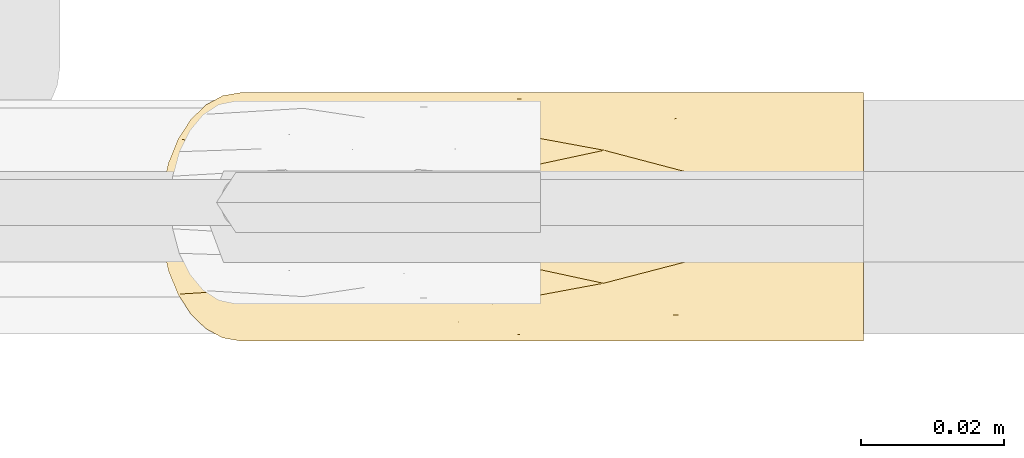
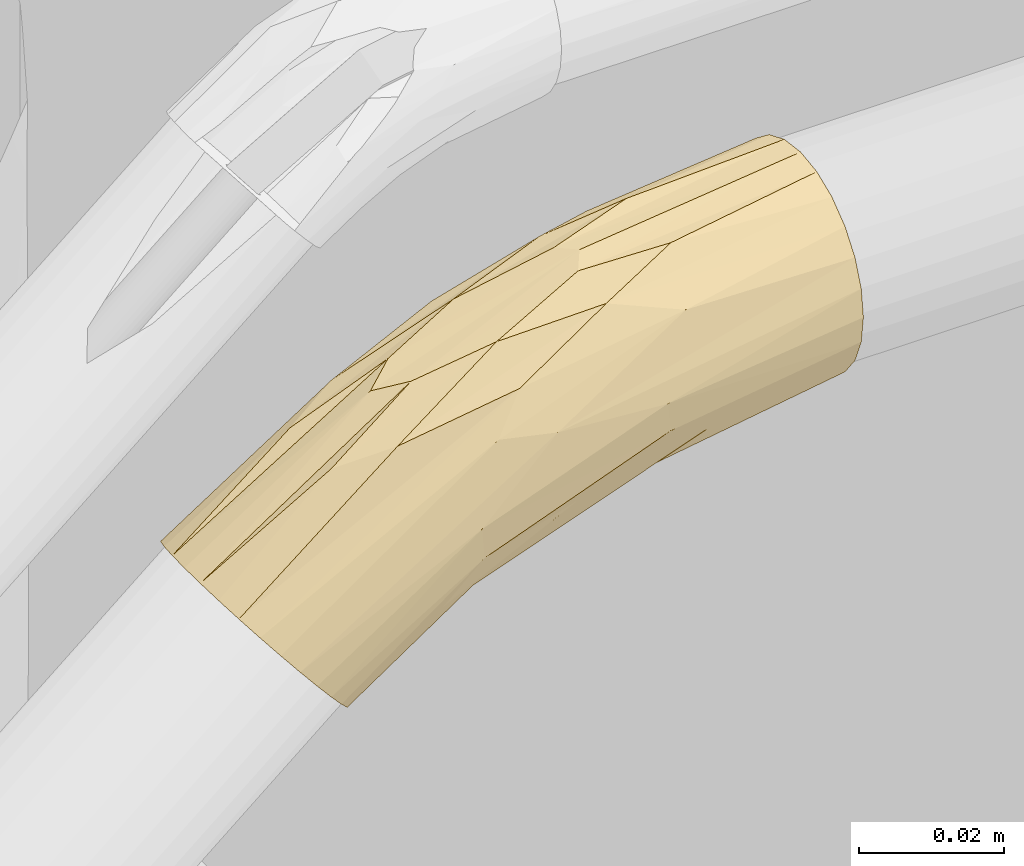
# One storey, part 3 of 30: 1 covering.
"""IFC2X3 building model written with IfcOpenShell, lengths in metres."""

from ifc_helpers import new_model, entity, si_unit, converted_unit, derived_unit, direction, frame, origin, place, context, subcontext, project, spatial, faceted_brep, material, type_object, element, save


model = new_model("IFC2X3")

# Units and contexts
model_context = context("Model", 3, precision=1e-05, world=origin(), true_north=direction((6.123031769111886e-17, 1.0)))
body_context = subcontext(model_context, "Body", "Model", "MODEL_VIEW")
ifc_project = project(units=[si_unit("LENGTHUNIT", "METRE"), si_unit("AREAUNIT", "SQUARE_METRE"), si_unit("VOLUMEUNIT", "CUBIC_METRE"), converted_unit("PLANEANGLEUNIT", "DEGREE", entity("IfcPlaneAngleMeasure", 0.017453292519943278), si_unit("PLANEANGLEUNIT", "RADIAN"), dimensions=[0, 0, 0, 0, 0, 0, 0]), si_unit("MASSUNIT", "GRAM", prefix="KILO"), derived_unit("MASSDENSITYUNIT", [(si_unit("MASSUNIT", "GRAM", prefix="KILO"), 1), (si_unit("LENGTHUNIT", "METRE"), -3)]), derived_unit("IONCONCENTRATIONUNIT", [(si_unit("MASSUNIT", "GRAM", prefix="KILO"), 1), (si_unit("LENGTHUNIT", "METRE"), -3)]), derived_unit("MOMENTOFINERTIAUNIT", [(si_unit("LENGTHUNIT", "METRE"), 4)]), si_unit("TIMEUNIT", "SECOND"), si_unit("FREQUENCYUNIT", "HERTZ"), si_unit("THERMODYNAMICTEMPERATUREUNIT", "DEGREE_CELSIUS"), derived_unit("THERMALTRANSMITTANCEUNIT", [(si_unit("MASSUNIT", "GRAM", prefix="KILO"), 1), (si_unit("THERMODYNAMICTEMPERATUREUNIT", "KELVIN"), -1), (si_unit("TIMEUNIT", "SECOND"), -3)]), derived_unit("THERMALCONDUCTANCEUNIT", [(si_unit("MASSUNIT", "GRAM", prefix="KILO"), 1), (si_unit("THERMODYNAMICTEMPERATUREUNIT", "KELVIN"), -1), (si_unit("TIMEUNIT", "SECOND"), -3), (si_unit("LENGTHUNIT", "METRE"), 1)]), derived_unit("VOLUMETRICFLOWRATEUNIT", [(si_unit("LENGTHUNIT", "METRE", prefix="DECI"), 3), (si_unit("TIMEUNIT", "SECOND"), -1)]), derived_unit("MASSFLOWRATEUNIT", [(si_unit("MASSUNIT", "GRAM", prefix="KILO"), 1), (si_unit("TIMEUNIT", "SECOND"), -1)]), derived_unit("ROTATIONALFREQUENCYUNIT", [(si_unit("TIMEUNIT", "SECOND"), -1)]), si_unit("ELECTRICCURRENTUNIT", "AMPERE"), si_unit("ELECTRICVOLTAGEUNIT", "VOLT"), si_unit("POWERUNIT", "WATT"), si_unit("FORCEUNIT", "NEWTON", prefix="KILO"), si_unit("ILLUMINANCEUNIT", "LUX"), si_unit("LUMINOUSFLUXUNIT", "LUMEN"), si_unit("LUMINOUSINTENSITYUNIT", "CANDELA"), si_unit("ENERGYUNIT", "JOULE"), derived_unit("USERDEFINED", [(si_unit("MASSUNIT", "GRAM", prefix="KILO"), -1), (si_unit("LENGTHUNIT", "METRE"), -2), (si_unit("TIMEUNIT", "SECOND"), 3), (si_unit("LUMINOUSFLUXUNIT", "LUMEN"), 1)]), derived_unit("USERDEFINED", [(si_unit("MASSUNIT", "GRAM", prefix="KILO"), 1), (si_unit("TIMEUNIT", "SECOND"), -3), (si_unit("LENGTHUNIT", "METRE"), 3), (si_unit("ELECTRICCURRENTUNIT", "AMPERE"), -2)]), derived_unit("SOUNDPOWERUNIT", [(si_unit("MASSUNIT", "GRAM", prefix="KILO"), 1), (si_unit("TIMEUNIT", "SECOND"), -3), (si_unit("LENGTHUNIT", "METRE"), 2)]), derived_unit("SOUNDPRESSUREUNIT", [(si_unit("MASSUNIT", "GRAM", prefix="KILO"), 1), (si_unit("LENGTHUNIT", "METRE"), -1), (si_unit("TIMEUNIT", "SECOND"), -2)]), derived_unit("LINEARVELOCITYUNIT", [(si_unit("LENGTHUNIT", "METRE"), 1), (si_unit("TIMEUNIT", "SECOND"), -1)]), si_unit("PRESSUREUNIT", "PASCAL"), derived_unit("USERDEFINED", [(si_unit("MASSUNIT", "GRAM", prefix="KILO"), 1), (si_unit("LENGTHUNIT", "METRE"), -2), (si_unit("TIMEUNIT", "SECOND"), -2)]), derived_unit("LINEARFORCEUNIT", [(si_unit("MASSUNIT", "GRAM", prefix="KILO"), 1), (si_unit("TIMEUNIT", "SECOND"), -2)]), derived_unit("PLANARFORCEUNIT", [(si_unit("MASSUNIT", "GRAM", prefix="KILO"), 1), (si_unit("LENGTHUNIT", "METRE"), -1), (si_unit("TIMEUNIT", "SECOND"), -2)]), derived_unit("SPECIFICHEATCAPACITYUNIT", [(si_unit("THERMODYNAMICTEMPERATUREUNIT", "KELVIN"), -1), (si_unit("LENGTHUNIT", "METRE"), 2), (si_unit("TIMEUNIT", "SECOND"), -2)]), derived_unit("HEATFLUXDENSITYUNIT", [(si_unit("MASSUNIT", "GRAM", prefix="KILO"), 1), (si_unit("TIMEUNIT", "SECOND"), -3)]), derived_unit("HEATINGVALUEUNIT", [(si_unit("LENGTHUNIT", "METRE"), 2), (si_unit("TIMEUNIT", "SECOND"), -2)]), derived_unit("VAPORPERMEABILITYUNIT", [(si_unit("LENGTHUNIT", "METRE"), -1), (si_unit("TIMEUNIT", "SECOND"), 1)]), derived_unit("DYNAMICVISCOSITYUNIT", [(si_unit("MASSUNIT", "GRAM", prefix="KILO"), 1), (si_unit("TIMEUNIT", "SECOND"), -1), (si_unit("LENGTHUNIT", "METRE"), -1)]), derived_unit("THERMALEXPANSIONCOEFFICIENTUNIT", [(si_unit("THERMODYNAMICTEMPERATUREUNIT", "KELVIN"), -1)]), derived_unit("MODULUSOFELASTICITYUNIT", [(si_unit("MASSUNIT", "GRAM", prefix="KILO"), 1), (si_unit("LENGTHUNIT", "METRE"), -1), (si_unit("TIMEUNIT", "SECOND"), -2)]), derived_unit("ISOTHERMALMOISTURECAPACITYUNIT", [(si_unit("MASSUNIT", "GRAM", prefix="KILO"), -1), (si_unit("LENGTHUNIT", "METRE"), 3)]), derived_unit("MOISTUREDIFFUSIVITYUNIT", [(si_unit("TIMEUNIT", "SECOND"), -1), (si_unit("LENGTHUNIT", "METRE"), 2)]), derived_unit("MASSPERLENGTHUNIT", [(si_unit("MASSUNIT", "GRAM", prefix="KILO"), 1), (si_unit("LENGTHUNIT", "METRE"), -1)]), derived_unit("THERMALRESISTANCEUNIT", [(si_unit("MASSUNIT", "GRAM", prefix="KILO"), -1), (si_unit("TIMEUNIT", "SECOND"), 3), (si_unit("THERMODYNAMICTEMPERATUREUNIT", "KELVIN"), 1)]), derived_unit("ACCELERATIONUNIT", [(si_unit("LENGTHUNIT", "METRE"), 1), (si_unit("TIMEUNIT", "SECOND"), -2)]), derived_unit("ANGULARVELOCITYUNIT", [(si_unit("TIMEUNIT", "SECOND"), -1), (si_unit("PLANEANGLEUNIT", "RADIAN"), 1)]), derived_unit("LINEARSTIFFNESSUNIT", [(si_unit("MASSUNIT", "GRAM", prefix="KILO"), 1), (si_unit("TIMEUNIT", "SECOND"), -2)]), derived_unit("WARPINGCONSTANTUNIT", [(si_unit("LENGTHUNIT", "METRE"), 6)]), derived_unit("LINEARMOMENTUNIT", [(si_unit("MASSUNIT", "GRAM", prefix="KILO"), 1), (si_unit("LENGTHUNIT", "METRE"), 1), (si_unit("TIMEUNIT", "SECOND"), -2)]), derived_unit("TORQUEUNIT", [(si_unit("MASSUNIT", "GRAM", prefix="KILO"), 1), (si_unit("LENGTHUNIT", "METRE"), 2), (si_unit("TIMEUNIT", "SECOND"), -2)])], contexts=[model_context])

# Site, building, storey
site_placement = place(None, origin())
site = spatial("IfcSite", under=ifc_project, at=site_placement, Name="Default", CompositionType="ELEMENT")
building_placement = place(site_placement, origin())
building = spatial("IfcBuilding", under=site, at=building_placement, CompositionType="ELEMENT")
storey_placement = place(building_placement, origin())
storey = spatial("IfcBuildingStorey", under=building, at=storey_placement, Name="Niveau 0", CompositionType="ELEMENT", Elevation=-1.949160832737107e-14)

# Covering
ifc_material = material(Name="Matériau du rendu 255-255-255")
covering_type = type_object("IfcCoveringType", Name="Isolation des canalisations:Par défaut", PredefinedType="INSULATION")
covering_placement = place(storey_placement, frame((-21.115125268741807, 1.3561078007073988, -0.010903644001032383)))
element("IfcCovering", 1, at=covering_placement, inside=storey, type_object=covering_type, material=ifc_material, Name="Isolation des canalisations:Par défaut", ObjectType="Isolation des canalisations:Par défaut", PredefinedType="INSULATION", context=body_context, shape_type="Brep", body=[
    faceted_brep([(0.02279472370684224, 0.011414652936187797, 0.002912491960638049), (0.021465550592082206, 0.008125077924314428, 0.004496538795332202), (0.019699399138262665, 0.0053784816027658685, 0.006601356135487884), (0.017584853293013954, 0.003312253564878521, 0.009121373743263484), (0.015227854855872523, 0.002029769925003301, 0.011930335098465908), (0.012747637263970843, 0.0015952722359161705, 0.014886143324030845), (0.01026476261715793, 0.0020307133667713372, 0.017845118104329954), (0.007907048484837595, 0.0033147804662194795, 0.020654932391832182), (0.00579255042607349, 0.0053826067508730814, 0.023174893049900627), (0.004027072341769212, 0.008130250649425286, 0.025278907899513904), (0.0026989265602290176, 0.011419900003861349, 0.026861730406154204), (0.0018745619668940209, 0.015086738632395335, 0.027844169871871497), (0.0015952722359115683, 0.018945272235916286, 0.028177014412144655), (0.0018751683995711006, 0.022807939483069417, 0.027843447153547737), (0.002700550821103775, 0.026475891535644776, 0.026859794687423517), (0.004029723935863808, 0.029765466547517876, 0.02527574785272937), (0.005795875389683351, 0.03251206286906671, 0.023170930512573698), (0.00791042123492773, 0.03457829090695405, 0.020650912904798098), (0.010267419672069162, 0.035860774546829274, 0.017841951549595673), (0.012747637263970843, 0.0362952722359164, 0.014886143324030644), (0.015230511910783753, 0.03585983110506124, 0.011927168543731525), (0.017588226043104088, 0.034575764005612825, 0.009117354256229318), (0.019702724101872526, 0.032507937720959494, 0.0065973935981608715), (0.021468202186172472, 0.029760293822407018, 0.004493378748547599), (0.02279634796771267, 0.026470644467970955, 0.0029105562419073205), (0.023620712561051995, 0.02280380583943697, 0.0019281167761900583), (0.02390000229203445, 0.018945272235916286, 0.0015952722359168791), (0.023620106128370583, 0.015082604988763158, 0.001928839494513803), (0.09981383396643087, 0.018945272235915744, 0.02922615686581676), (0.09981382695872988, 0.023435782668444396, 0.029817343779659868), (0.09981380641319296, 0.02762027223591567, 0.0315506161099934), (0.09981377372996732, 0.031213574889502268, 0.034307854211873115), (0.09981373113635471, 0.03397081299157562, 0.03790115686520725), (0.09981368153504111, 0.03570408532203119, 0.04208564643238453), (0.09981362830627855, 0.03629527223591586, 0.04657615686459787), (0.099813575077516, 0.03570408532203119, 0.05106666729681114), (0.09981352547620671, 0.033970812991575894, 0.05525115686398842), (0.0998134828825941, 0.031213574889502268, 0.058844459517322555), (0.09981345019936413, 0.02762027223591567, 0.06160169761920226), (0.09981342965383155, 0.023435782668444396, 0.06333496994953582), (0.09981342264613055, 0.018945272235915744, 0.06392615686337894), (0.09981342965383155, 0.014454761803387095, 0.06333496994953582), (0.09981345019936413, 0.010270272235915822, 0.06160169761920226), (0.0998134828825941, 0.006676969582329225, 0.058844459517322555), (0.09981352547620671, 0.0039197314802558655, 0.0552511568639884), (0.099813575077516, 0.0021864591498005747, 0.05106666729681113), (0.09981362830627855, 0.0015952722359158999, 0.04657615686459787), (0.09981368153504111, 0.0021864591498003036, 0.042085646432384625), (0.09981373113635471, 0.0039197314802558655, 0.037901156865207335), (0.09981377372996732, 0.006676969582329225, 0.034307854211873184), (0.09981380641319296, 0.010270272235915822, 0.03155061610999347), (0.09981382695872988, 0.014454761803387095, 0.0298173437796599), (0.03589892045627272, 0.015778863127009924, 0.04959518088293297), (0.021702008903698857, 0.013253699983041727, 0.0413329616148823), (0.06457523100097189, 0.018945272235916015, 0.05980705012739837), (0.06244201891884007, 0.01566942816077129, 0.05896337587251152), (0.06347820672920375, 0.009653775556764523, 0.05676391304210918), (0.047911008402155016, 0.013007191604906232, 0.05372608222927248), (0.030286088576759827, 0.009781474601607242, 0.04424488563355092), (0.07558462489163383, 0.01279859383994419, 0.06085292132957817), (0.051624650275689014, 0.0024716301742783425, 0.043523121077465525), (0.04801419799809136, 0.006788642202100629, 0.04958234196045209), (0.07357242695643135, 0.005236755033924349, 0.05483454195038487), (0.06857654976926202, 0.0015952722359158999, 0.04292475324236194), (0.031236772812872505, 0.018945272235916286, 0.04767261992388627), (0.04318305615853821, 0.0042079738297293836, 0.044181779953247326), (0.039023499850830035, 0.0015952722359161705, 0.03216812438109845), (0.06963617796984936, 0.002500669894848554, 0.03749095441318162), (0.05565790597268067, 0.004129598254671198, 0.029585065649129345), (0.0788071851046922, 0.005116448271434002, 0.034319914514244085), (0.03993713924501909, 0.0025082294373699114, 0.02639842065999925), (0.05911162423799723, 0.013416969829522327, 0.022953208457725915), (0.061849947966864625, 0.008267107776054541, 0.026832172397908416), (0.07257786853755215, 0.018945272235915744, 0.026042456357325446), (0.040438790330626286, 0.006599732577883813, 0.01914198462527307), (0.04065432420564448, 0.009647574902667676, 0.016450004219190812), (0.03432435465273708, 0.004197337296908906, 0.01913325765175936), (0.04681022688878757, 0.018945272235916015, 0.016663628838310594), (0.05911162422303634, 0.024473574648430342, 0.02295320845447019), (0.06964641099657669, 0.035387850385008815, 0.037487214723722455), (0.07882034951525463, 0.032774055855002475, 0.0343221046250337), (0.05566151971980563, 0.03375767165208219, 0.029580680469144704), (0.04066671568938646, 0.028237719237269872, 0.016453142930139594), (0.061849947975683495, 0.029623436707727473, 0.026832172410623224), (0.06857654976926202, 0.03629527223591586, 0.04292475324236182), (0.04042705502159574, 0.03128608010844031, 0.01913006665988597), (0.039943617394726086, 0.035380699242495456, 0.026396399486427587), (0.039023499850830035, 0.03629527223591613, 0.03216812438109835), (0.03432705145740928, 0.03368991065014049, 0.019128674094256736), (0.051624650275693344, 0.035418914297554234, 0.043523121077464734), (0.06239616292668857, 0.02221924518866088, 0.05895214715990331), (0.021699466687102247, 0.024641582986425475, 0.04132951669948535), (0.03586644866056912, 0.02211310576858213, 0.049579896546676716), (0.04325856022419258, 0.033684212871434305, 0.044211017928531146), (0.07359304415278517, 0.03265383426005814, 0.0548382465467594), (0.048015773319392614, 0.031106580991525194, 0.04957802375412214), (0.03031392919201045, 0.028114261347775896, 0.04425577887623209), (0.06357921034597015, 0.028239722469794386, 0.05678714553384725), (0.07557132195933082, 0.025086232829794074, 0.060852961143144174), (0.0479110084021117, 0.024883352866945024, 0.05372608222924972)], [[[0, 1, 2, 3, 4, 5, 6, 7, 8, 9, 10, 11, 12, 13, 14, 15, 16, 17, 18, 19, 20, 21, 22, 23, 24, 25, 26, 27]], [[28, 29, 30, 31, 32, 33, 34, 35, 36, 37, 38, 39, 40, 41, 42, 43, 44, 45, 46, 47, 48, 49, 50, 51]], [[52, 11, 53]], [[40, 54, 55]], [[56, 57, 58]], [[41, 55, 59]], [[7, 6, 60]], [[9, 58, 10]], [[56, 58, 61]], [[62, 60, 44]], [[45, 63, 46]], [[63, 45, 60]], [[44, 60, 45]], [[59, 42, 41]], [[44, 43, 62]], [[56, 61, 62]], [[52, 54, 64]], [[9, 61, 58]], [[9, 8, 61]], [[57, 53, 58]], [[11, 10, 53]], [[11, 64, 12]], [[42, 59, 56]], [[57, 56, 59]], [[56, 43, 42]], [[40, 55, 41]], [[8, 7, 65]], [[5, 66, 6]], [[66, 63, 60]], [[60, 6, 66]], [[11, 52, 64]], [[52, 57, 55]], [[62, 65, 60]], [[52, 53, 57]], [[59, 55, 57]], [[55, 54, 52]], [[56, 62, 43]], [[58, 53, 10]], [[62, 61, 65]], [[8, 65, 61]], [[7, 60, 65]], [[67, 68, 69]], [[47, 46, 63]], [[48, 69, 49]], [[66, 67, 63]], [[66, 4, 70]], [[0, 27, 71]], [[72, 50, 49]], [[51, 73, 28]], [[73, 51, 71]], [[63, 67, 47]], [[67, 48, 47]], [[72, 71, 50]], [[74, 2, 1]], [[66, 70, 67]], [[74, 75, 72]], [[1, 0, 75]], [[76, 3, 2]], [[76, 74, 68]], [[70, 3, 76]], [[5, 4, 66]], [[70, 68, 67]], [[67, 69, 48]], [[71, 75, 0]], [[69, 74, 72]], [[26, 77, 27]], [[50, 71, 51]], [[73, 71, 77]], [[77, 71, 27]], [[75, 74, 1]], [[72, 75, 71]], [[69, 72, 49]], [[70, 76, 68]], [[70, 4, 3]], [[69, 68, 74]], [[74, 76, 2]], [[30, 29, 78]], [[25, 24, 78]], [[28, 73, 29]], [[79, 80, 81]], [[78, 24, 82]], [[78, 83, 30]], [[34, 33, 84]], [[85, 82, 23]], [[80, 79, 32]], [[80, 85, 81]], [[30, 83, 31]], [[86, 79, 81]], [[20, 87, 86]], [[79, 86, 87]], [[77, 78, 73]], [[77, 26, 25]], [[85, 88, 81]], [[86, 21, 20]], [[31, 80, 32]], [[23, 22, 85]], [[73, 78, 29]], [[24, 23, 82]], [[85, 83, 82]], [[33, 79, 84]], [[88, 22, 21]], [[83, 85, 80]], [[88, 85, 22]], [[20, 19, 87]], [[81, 88, 86]], [[32, 79, 33]], [[79, 87, 84]], [[86, 88, 21]], [[25, 78, 77]], [[83, 80, 31]], [[78, 82, 83]], [[36, 35, 89]], [[40, 90, 54]], [[34, 84, 35]], [[13, 91, 14]], [[54, 92, 64]], [[89, 93, 94]], [[39, 90, 40]], [[89, 94, 36]], [[95, 96, 97]], [[38, 98, 39]], [[37, 94, 97]], [[92, 90, 99]], [[97, 99, 98]], [[98, 38, 97]], [[87, 89, 84]], [[98, 90, 39]], [[87, 19, 18]], [[36, 94, 37]], [[93, 16, 95]], [[92, 13, 64]], [[37, 97, 38]], [[89, 35, 84]], [[96, 91, 99]], [[15, 95, 16]], [[54, 90, 92]], [[96, 15, 14]], [[13, 12, 64]], [[97, 96, 99]], [[93, 95, 94]], [[99, 91, 92]], [[95, 15, 96]], [[91, 96, 14]], [[98, 99, 90]], [[18, 89, 87]], [[13, 92, 91]], [[18, 17, 89]], [[97, 94, 95]], [[89, 17, 93]], [[16, 93, 17]]]),
])

save(model, "model.ifc")
